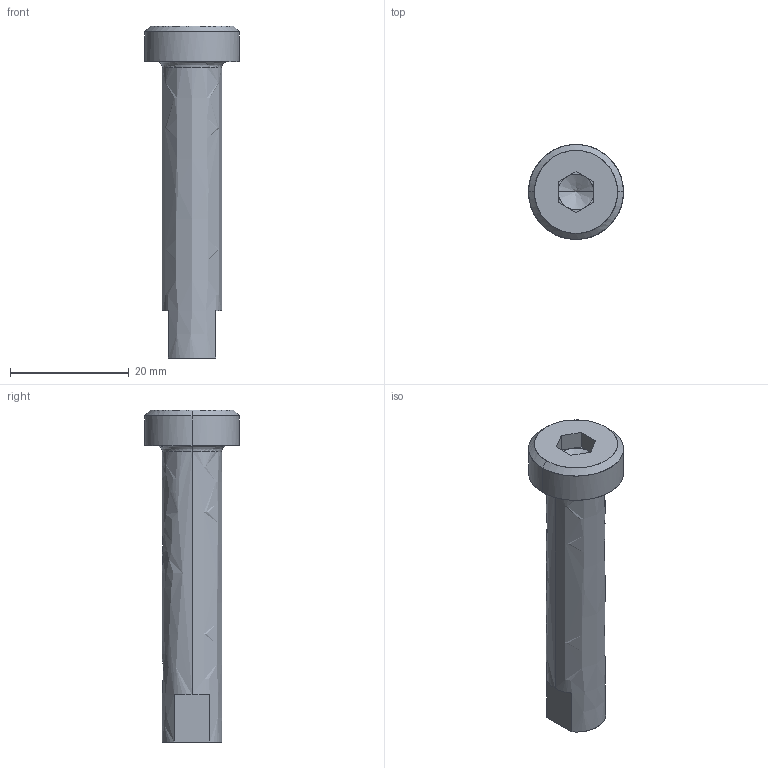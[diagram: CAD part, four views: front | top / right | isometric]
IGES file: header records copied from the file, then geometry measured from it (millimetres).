
Global section: file name: E:\UnigraphicsGraphicData\MISUMI_PRESS-PARTS\IGES\3d_sbtln10-50_05175_r00.igs; native system: NX V5.0; preprocessor: UGS NX IGES V5.0; author: MISUMI; date: 20110105.162504; units: millimetre
Bounding box: 16 x 16 x 56 mm (x, y, z)
Surface area: 2587.3 mm2 (no closed solid volume)
Topology: 0 solids, 0 shells, 36 faces, 192 edges, 188 vertices
Faces by surface type: bspline 36
